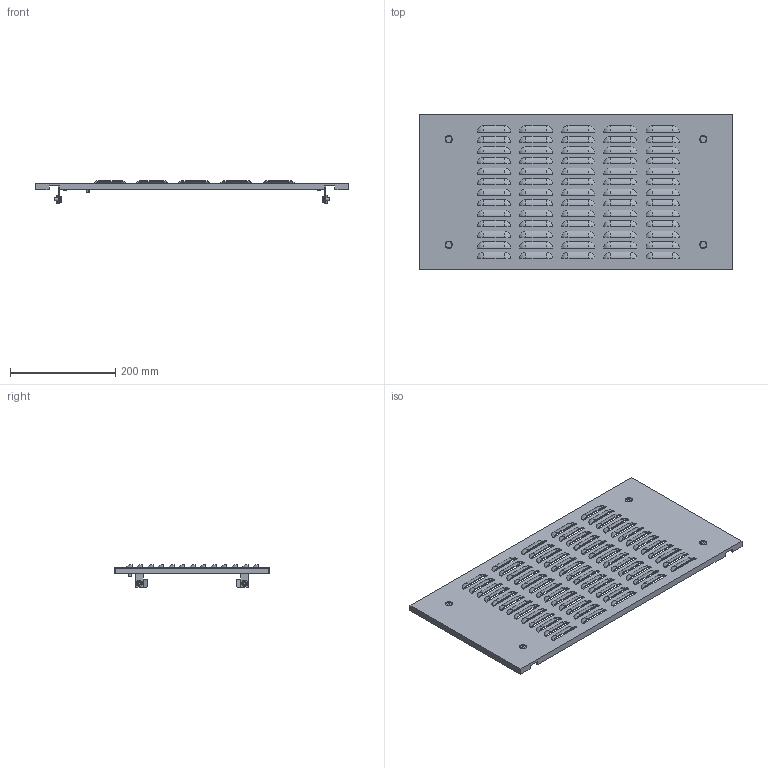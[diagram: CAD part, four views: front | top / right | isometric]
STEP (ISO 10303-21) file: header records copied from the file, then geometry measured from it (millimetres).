
FILE_DESCRIPTION (( 'STEP AP214' ), '1' );
FILE_NAME ('FO-00-PWSV-030-060 Ôàëüø-ïàíåëü âíåøíÿÿ âåíòèëèðóåìàÿ 300õ600 ìì.STEP', '2025-08-25T07:21:05', ( '' ), ( '' ), 'SwSTEP 2.0', 'SolidWorks 2023', '' );
FILE_SCHEMA (( 'AUTOMOTIVE_DESIGN' ));
Length unit declared in the file: millimetre
Products named in the file (1): FO-00-PWSV-030-060 Фальш-панель внешняя вентилируемая 300х600 мм
Bounding box: 595 x 296 x 43.5 mm (x, y, z)
Volume: 471106.7 mm3; surface area: 445034.9 mm2
Topology: 1 solids, 13 shells, 1814 faces, 4720 edges, 2950 vertices
Faces by surface type: plane 761, cylinder 579, sphere 260, torus 154, cone 60
Entity records: 56629 total; most frequent: DIRECTION 10556, CARTESIAN_POINT 10073, ORIENTED_EDGE 9440, EDGE_CURVE 4720, AXIS2_PLACEMENT_3D 4053, VERTEX_POINT 2950, LINE 2450, VECTOR 2450
